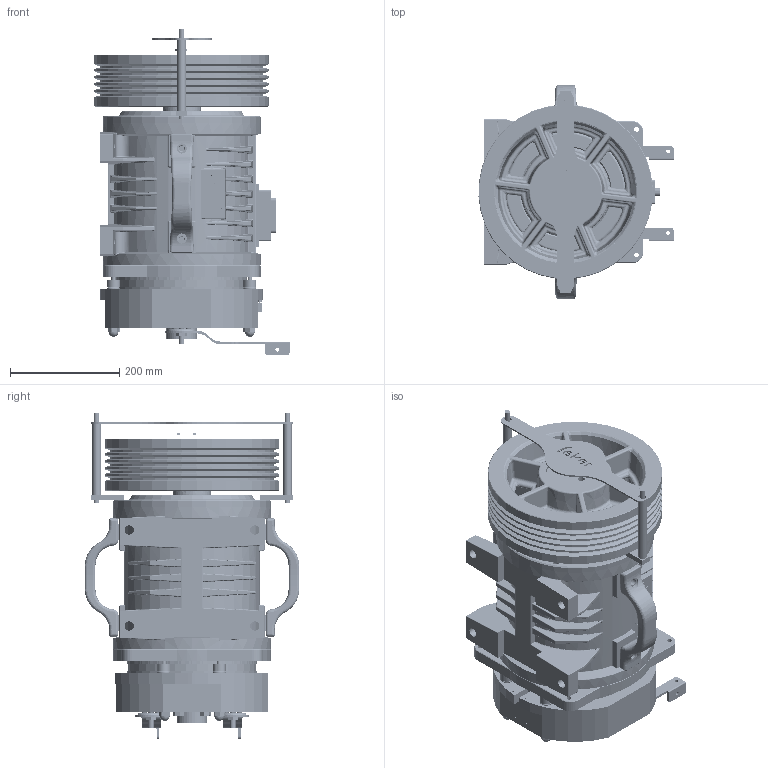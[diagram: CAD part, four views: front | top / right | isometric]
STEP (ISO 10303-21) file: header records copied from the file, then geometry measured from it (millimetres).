
FILE_DESCRIPTION (( 'STEP AP214' ), '1' );
FILE_NAME ('QS13240100.STEP', '2025-10-02T13:35:43', ( '' ), ( '' ), 'SwSTEP 2.0', 'SolidWorks 2023', '' );
FILE_SCHEMA (( 'AUTOMOTIVE_DESIGN' ));
Length unit declared in the file: millimetre
Products named in the file (1): QS13240100
Bounding box: 357.57 x 394 x 598.52 mm (x, y, z)
Volume: 37390619.8 mm3; surface area: 4115070.5 mm2
Topology: 80 solids, 80 shells, 5556 faces, 13928 edges, 8405 vertices
Faces by surface type: cylinder 2203, plane 1457, bspline 845, cone 438, sphere 329, torus 284
Entity records: 196969 total; most frequent: CARTESIAN_POINT 69270, ORIENTED_EDGE 27086, DIRECTION 26303, EDGE_CURVE 13543, AXIS2_PLACEMENT_3D 10423, VERTEX_POINT 8359, EDGE_LOOP 6062, CIRCLE 5711
